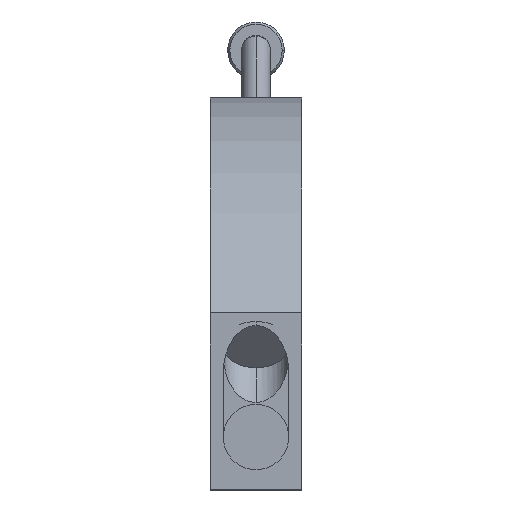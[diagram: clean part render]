
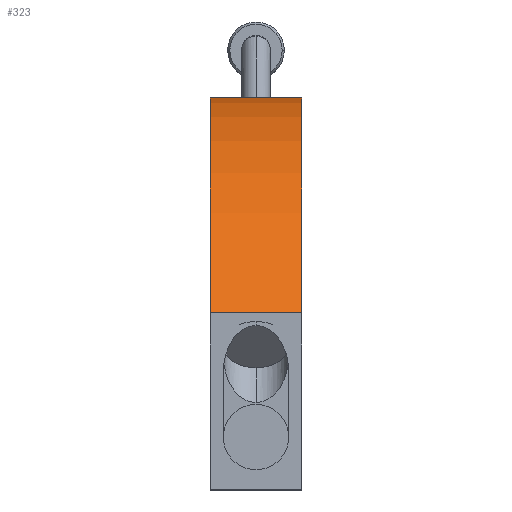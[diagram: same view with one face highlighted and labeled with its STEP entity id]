
A CAD part, top view. The second image highlights one B-rep face of the part: STEP entity #323.
In plain terms, the highlighted cylindrical face has radius 30 mm (diameter 60 mm), a partial arc.
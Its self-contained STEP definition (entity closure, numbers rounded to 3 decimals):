
#237 = VERTEX_POINT ( 'NONE', #1197 ) ;
#251 = EDGE_CURVE ( 'NONE', #885, #237, #1176, .T. ) ;
#279 = EDGE_CURVE ( 'NONE', #237, #303, #1258, .T. ) ;
#302 = EDGE_CURVE ( 'NONE', #335, #303, #1284, .T. ) ;
#303 = VERTEX_POINT ( 'NONE', #1279 ) ;
#320 = EDGE_CURVE ( 'NONE', #885, #335, #1311, .T. ) ;
#323 = ADVANCED_FACE ( 'NONE', ( #1307 ), #1359, .T. ) ;
#324 = EDGE_LOOP ( 'NONE', ( #325, #503, #504, #505 ) ) ;
#325 = ORIENTED_EDGE ( 'NONE', *, *, #320, .F. ) ;
#335 = VERTEX_POINT ( 'NONE', #1342 ) ;
#503 = ORIENTED_EDGE ( 'NONE', *, *, #251, .T. ) ;
#504 = ORIENTED_EDGE ( 'NONE', *, *, #279, .T. ) ;
#505 = ORIENTED_EDGE ( 'NONE', *, *, #302, .F. ) ;
#885 = VERTEX_POINT ( 'NONE', #2175 ) ;
#1175 = AXIS2_PLACEMENT_3D ( 'NONE', #1240, #1239, #1238 ) ;
#1176 = CIRCLE ( 'NONE', #1175, 30. ) ;
#1197 = CARTESIAN_POINT ( 'NONE',  ( 3.5, 30., -26.791 ) ) ;
#1238 = DIRECTION ( 'NONE',  ( 0., 0., 1. ) ) ;
#1239 = DIRECTION ( 'NONE',  ( -1., 0., 0. ) ) ;
#1240 = CARTESIAN_POINT ( 'NONE',  ( 3.5, 0., -26.791 ) ) ;
#1255 = DIRECTION ( 'NONE',  ( -1., 0., 0. ) ) ;
#1256 = VECTOR ( 'NONE', #1255, 1000. ) ;
#1257 = CARTESIAN_POINT ( 'NONE',  ( 62.658, 30., -26.791 ) ) ;
#1258 = LINE ( 'NONE', #1257, #1256 ) ;
#1279 = CARTESIAN_POINT ( 'NONE',  ( -3.5, 30., -26.791 ) ) ;
#1280 = DIRECTION ( 'NONE',  ( 0., 0., 1. ) ) ;
#1281 = DIRECTION ( 'NONE',  ( -1., 0., 0. ) ) ;
#1282 = CARTESIAN_POINT ( 'NONE',  ( -3.5, 0., -26.791 ) ) ;
#1283 = AXIS2_PLACEMENT_3D ( 'NONE', #1282, #1281, #1280 ) ;
#1284 = CIRCLE ( 'NONE', #1283, 30. ) ;
#1306 = CARTESIAN_POINT ( 'NONE',  ( 62.658, 0., -26.791 ) ) ;
#1307 = FACE_OUTER_BOUND ( 'NONE', #324, .T. ) ;
#1308 = DIRECTION ( 'NONE',  ( -1., 0., 0. ) ) ;
#1309 = VECTOR ( 'NONE', #1308, 1000. ) ;
#1310 = CARTESIAN_POINT ( 'NONE',  ( 62.658, 13.5, 0. ) ) ;
#1311 = LINE ( 'NONE', #1310, #1309 ) ;
#1342 = CARTESIAN_POINT ( 'NONE',  ( -3.5, 13.5, 0. ) ) ;
#1356 = DIRECTION ( 'NONE',  ( 0., 0., 1. ) ) ;
#1357 = DIRECTION ( 'NONE',  ( -1., 0., 0. ) ) ;
#1358 = AXIS2_PLACEMENT_3D ( 'NONE', #1306, #1357, #1356 ) ;
#1359 = CYLINDRICAL_SURFACE ( 'NONE', #1358, 30. ) ;
#2175 = CARTESIAN_POINT ( 'NONE',  ( 3.5, 13.5, 0. ) ) ;
